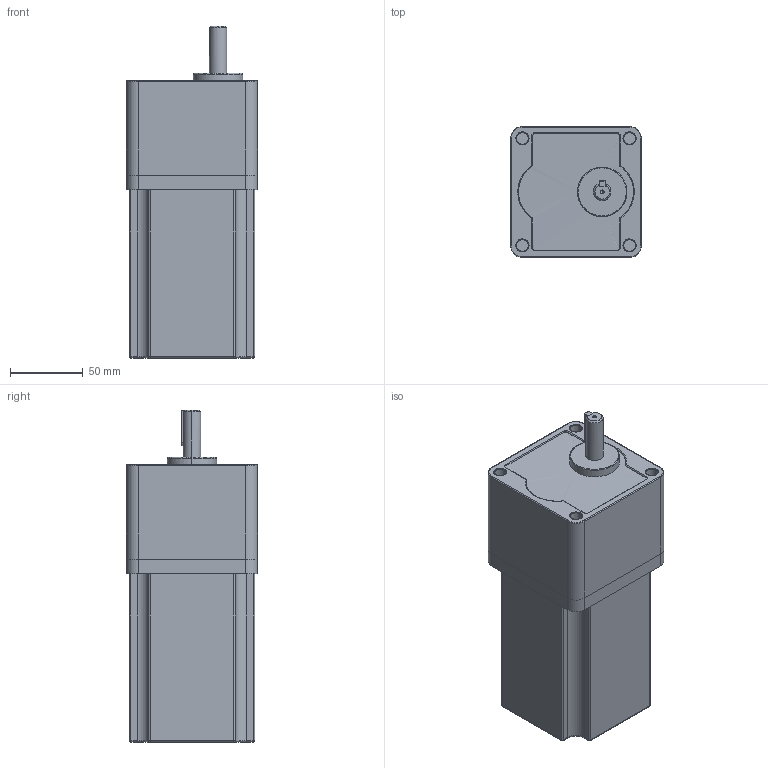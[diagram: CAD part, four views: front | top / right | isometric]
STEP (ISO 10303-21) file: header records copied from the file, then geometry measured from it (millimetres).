
FILE_DESCRIPTION (( 'STEP AP203' ), '1' );
FILE_NAME ('TM3403GU60A+5GU（L12）.STEP', '2026-07-20T03:10:29', ( 'user' ), ( '微软中国' ), 'SwSTEP 2.0', 'SolidWorks 2014', '' );
FILE_SCHEMA (( 'CONFIG_CONTROL_DESIGN' ));
Length unit declared in the file: millimetre
Products named in the file (1): TM3403GU60A+5GU（L12）
Bounding box: 90 x 90 x 228 mm (x, y, z)
Surface area: 126346.2 mm2 (no closed solid volume)
Topology: 0 solids, 5 shells, 141 faces, 344 edges, 202 vertices
Faces by surface type: cylinder 70, plane 36, bspline 18, sphere 8, cone 5, torus 4
Entity records: 5755 total; most frequent: CARTESIAN_POINT 2592, DIRECTION 636, ORIENTED_EDGE 635, EDGE_CURVE 334, AXIS2_PLACEMENT_3D 245, VERTEX_POINT 202, EDGE_LOOP 149, LINE 146
